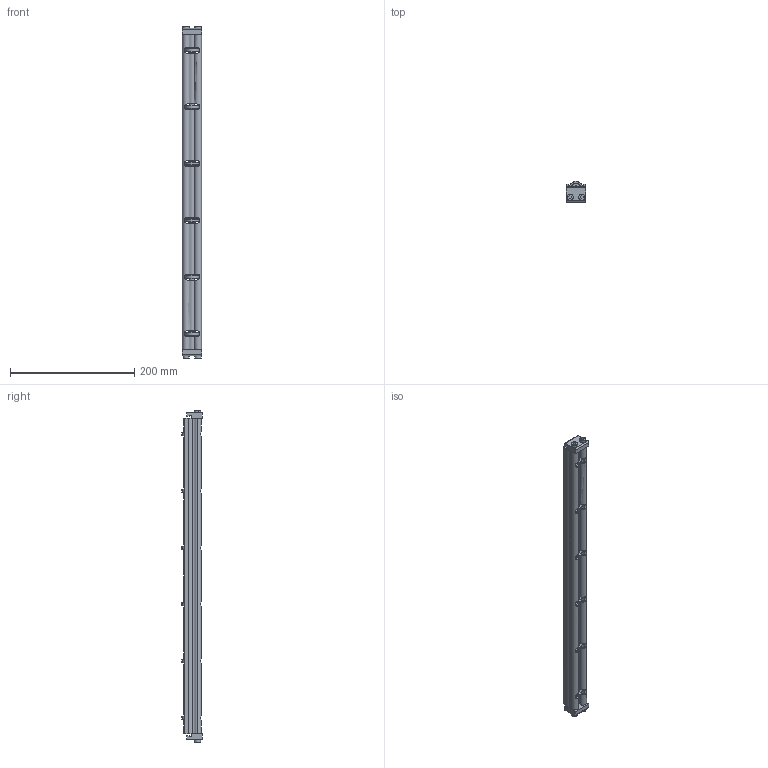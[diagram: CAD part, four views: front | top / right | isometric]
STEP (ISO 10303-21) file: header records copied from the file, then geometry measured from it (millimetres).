
FILE_DESCRIPTION((''),'2;1');
FILE_NAME('324920_ASM','2023-03-14T',('jenni.wallner'),(''),'PRO/ENGINEER BY PARAMETRIC TECHNOLOGY CORPORATION, 2012420','PRO/ENGINEER BY PARAMETRIC TECHNOLOGY CORPORATION, 2012420','');
FILE_SCHEMA(('CONFIG_CONTROL_DESIGN'));
Length unit declared in the file: inch
Products named in the file (7): 2436WW_243620; 240826; 240827_CAE; X920693M; 2410WW_CAE_241020; ASM0001_ASM; 324920_ASM
Assembly tree (15 placements, depth 3):
  324920_ASM
    ASM0001_ASM
      2436WW_243620
      240826  x6
      240827_CAE  x2
      X920693M  x4
      2410WW_CAE_241020
Bounding box: 30.88 x 33.34 x 535.41 mm (x, y, z)
Volume: 255397.7 mm3; surface area: 151683.8 mm2
Topology: 14 solids, 14 shells, 426 faces, 1184 edges, 782 vertices
Faces by surface type: cylinder 192, plane 158, cone 52, torus 24
Entity records: 10447 total; most frequent: CARTESIAN_POINT 2667, ORIENTED_EDGE 1664, DIRECTION 1610, EDGE_CURVE 832, AXIS2_PLACEMENT_3D 608, VERTEX_POINT 554, VECTOR 394, LINE 394
